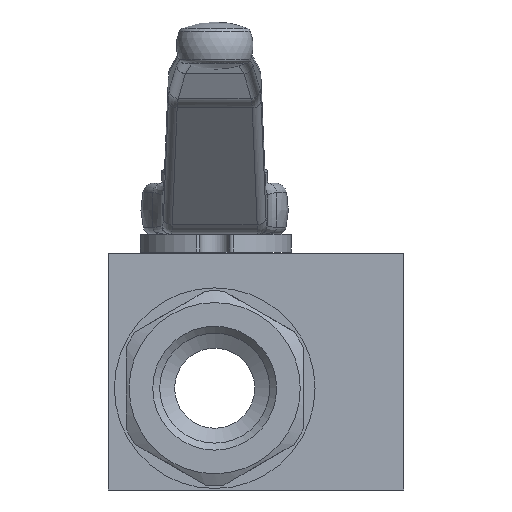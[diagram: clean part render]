
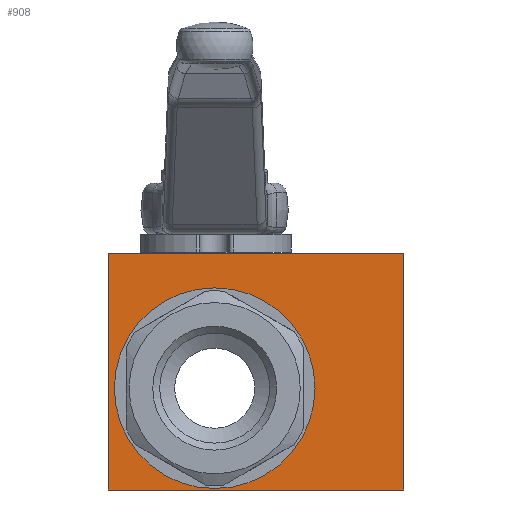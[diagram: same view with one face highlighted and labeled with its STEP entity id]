
A CAD part, front view. The second image highlights one B-rep face of the part: STEP entity #908.
In plain terms, the highlighted planar face has unit normal (0, -1, 0).
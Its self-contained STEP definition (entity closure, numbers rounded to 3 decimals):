
#908 = ADVANCED_FACE( '', ( #1812, #1813 ), #1814, .T. );
#1812 = FACE_BOUND( '', #3629, .T. );
#1813 = FACE_OUTER_BOUND( '', #3630, .T. );
#1814 = PLANE( '', #3631 );
#3629 = EDGE_LOOP( '', ( #5806 ) );
#3630 = EDGE_LOOP( '', ( #5807, #5808, #5809, #5810 ) );
#3631 = AXIS2_PLACEMENT_3D( '', #5811, #5812, #5813 );
#5806 = ORIENTED_EDGE( '', *, *, #7289, .F. );
#5807 = ORIENTED_EDGE( '', *, *, #6578, .T. );
#5808 = ORIENTED_EDGE( '', *, *, #7290, .T. );
#5809 = ORIENTED_EDGE( '', *, *, #7291, .T. );
#5810 = ORIENTED_EDGE( '', *, *, #7122, .T. );
#5811 = CARTESIAN_POINT( '', ( -18., -25., -17.25 ) );
#5812 = DIRECTION( '', ( 0., -1., 0. ) );
#5813 = DIRECTION( '', ( 0., 0., -1. ) );
#6578 = EDGE_CURVE( '', #7745, #7743, #7746, .T. );
#7122 = EDGE_CURVE( '', #8586, #7745, #8587, .T. );
#7289 = EDGE_CURVE( '', #8789, #8789, #8790, .T. );
#7290 = EDGE_CURVE( '', #7743, #8791, #8792, .T. );
#7291 = EDGE_CURVE( '', #8791, #8586, #8793, .T. );
#7743 = VERTEX_POINT( '', #9354 );
#7745 = VERTEX_POINT( '', #9357 );
#7746 = LINE( '', #9358, #9359 );
#8586 = VERTEX_POINT( '', #11520 );
#8587 = LINE( '', #11521, #11522 );
#8789 = VERTEX_POINT( '', #12035 );
#8790 = CIRCLE( '', #12036, 17. );
#8791 = VERTEX_POINT( '', #12037 );
#8792 = LINE( '', #12038, #12039 );
#8793 = LINE( '', #12040, #12041 );
#9354 = CARTESIAN_POINT( '', ( -18., -25., -17.25 ) );
#9357 = CARTESIAN_POINT( '', ( -18., -25., 22.75 ) );
#9358 = CARTESIAN_POINT( '', ( -18., -25., 22.75 ) );
#9359 = VECTOR( '', #12443, 1000. );
#11520 = CARTESIAN_POINT( '', ( 32., -25., 22.75 ) );
#11521 = CARTESIAN_POINT( '', ( 32., -25., 22.75 ) );
#11522 = VECTOR( '', #13137, 1000. );
#12035 = CARTESIAN_POINT( '', ( 17., -25., 0. ) );
#12036 = AXIS2_PLACEMENT_3D( '', #13303, #13304, #13305 );
#12037 = CARTESIAN_POINT( '', ( 32., -25., -17.25 ) );
#12038 = CARTESIAN_POINT( '', ( -18., -25., -17.25 ) );
#12039 = VECTOR( '', #13306, 1000. );
#12040 = CARTESIAN_POINT( '', ( 32., -25., -17.25 ) );
#12041 = VECTOR( '', #13307, 1000. );
#12443 = DIRECTION( '', ( 0., 0., -1. ) );
#13137 = DIRECTION( '', ( -1., 0., 0. ) );
#13303 = CARTESIAN_POINT( '', ( 0., -25., 0. ) );
#13304 = DIRECTION( '', ( 0., -1., 0. ) );
#13305 = DIRECTION( '', ( 1., 0., 0. ) );
#13306 = DIRECTION( '', ( 1., 0., 0. ) );
#13307 = DIRECTION( '', ( 0., 0., 1. ) );
